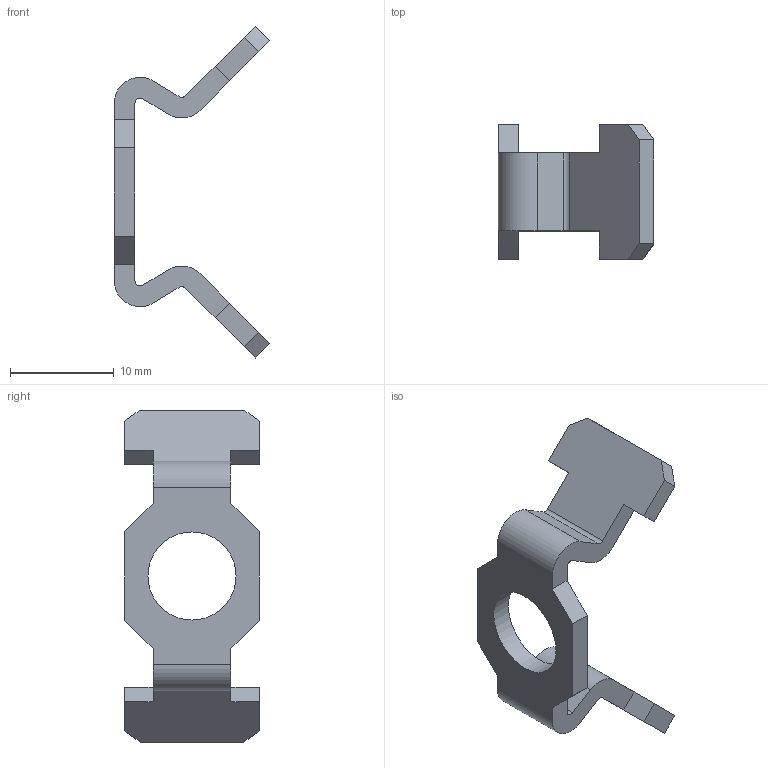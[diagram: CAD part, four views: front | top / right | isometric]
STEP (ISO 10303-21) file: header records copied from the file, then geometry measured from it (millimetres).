
FILE_DESCRIPTION(/* description */ ('STEP AP214'),/* implementation_level */ '2;1');
FILE_NAME(/* name */ 'C:\Users\aleat\Desktop\CATALOGO ALEA SISTEMI 2018\Profilati e accessori\Giunzione\STEP\GARC8.stp',/* time_stamp */ '2018-06-05T08:49:58+02:00',/* author */ ('aleat'),/* organization */ (''),/* preprocessor_version */ 'ST-DEVELOPER v17',/* originating_system */ 'Autodesk Inventor 2019',/* authorisation */ ' ');
FILE_SCHEMA (('AUTOMOTIVE_DESIGN { 1 0 10303 214 3 1 1 }'));
Length unit declared in the file: millimetre
Products named in the file (1): GARC8
Bounding box: 15 x 13 x 32 mm (x, y, z)
Volume: 904.6 mm3; surface area: 1242.9 mm2
Topology: 1 solids, 1 shells, 43 faces, 124 edges, 83 vertices
Faces by surface type: plane 34, cylinder 9
Full cylindrical faces by diameter (mm): 8.5 x1
Entity records: 1455 total; most frequent: CARTESIAN_POINT 251, ORIENTED_EDGE 248, DIRECTION 231, EDGE_CURVE 124, LINE 105, VECTOR 105, VERTEX_POINT 83, AXIS2_PLACEMENT_3D 63
